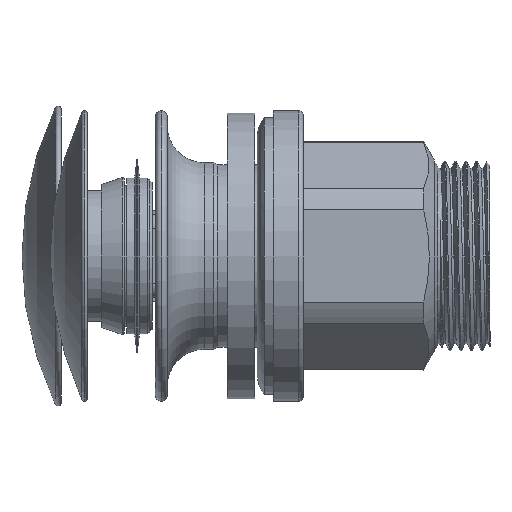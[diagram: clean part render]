
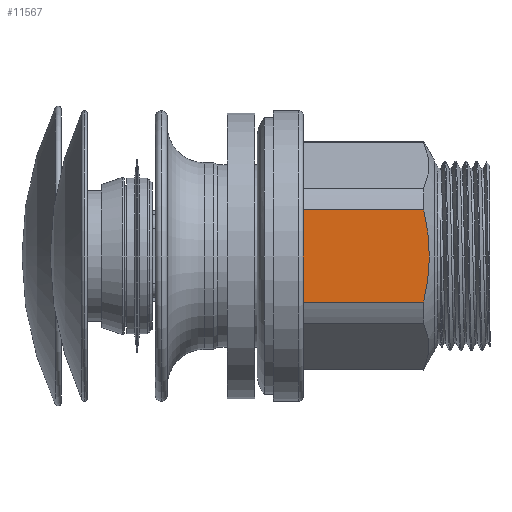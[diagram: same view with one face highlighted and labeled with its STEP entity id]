
A CAD part, left-side view. The second image highlights one B-rep face of the part: STEP entity #11567.
In plain terms, the highlighted planar face has unit normal (-1, 0, 0).
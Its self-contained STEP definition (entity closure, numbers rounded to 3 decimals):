
#32=(
BOUNDED_CURVE()
B_SPLINE_CURVE(2,(#34868,#34869,#34870),.UNSPECIFIED.,.F.,.F.)
B_SPLINE_CURVE_WITH_KNOTS((3,3),(7.369,9.521),
 .UNSPECIFIED.)
CURVE()
GEOMETRIC_REPRESENTATION_ITEM()
RATIONAL_B_SPLINE_CURVE((2.083,2.083,1.991))
REPRESENTATION_ITEM('')
);
#33=(
BOUNDED_CURVE()
B_SPLINE_CURVE(2,(#34872,#34873,#34874),.UNSPECIFIED.,.F.,.F.)
B_SPLINE_CURVE_WITH_KNOTS((3,3),(5.218,7.369),
 .UNSPECIFIED.)
CURVE()
GEOMETRIC_REPRESENTATION_ITEM()
RATIONAL_B_SPLINE_CURVE((1.991,2.083,2.083))
REPRESENTATION_ITEM('')
);
#307=PLANE('',#12598);
#794=FACE_OUTER_BOUND('',#1508,.T.);
#1508=EDGE_LOOP('',(#9088,#9089,#9090,#9091,#9092));
#3246=LINE('',#30450,#3915);
#3247=LINE('',#30455,#3916);
#3274=LINE('',#31255,#3943);
#3915=VECTOR('',#14615,1.);
#3916=VECTOR('',#14620,1.);
#3943=VECTOR('',#14761,1.);
#4822=VERTEX_POINT('',#30447);
#4823=VERTEX_POINT('',#30449);
#4824=VERTEX_POINT('',#30453);
#4825=VERTEX_POINT('',#30454);
#4933=VERTEX_POINT('',#34867);
#6229=EDGE_CURVE('',#4823,#4822,#3246,.T.);
#6231=EDGE_CURVE('',#4824,#4825,#3247,.T.);
#6308=EDGE_CURVE('',#4824,#4822,#3274,.T.);
#6410=EDGE_CURVE('',#4933,#4823,#32,.T.);
#6412=EDGE_CURVE('',#4825,#4933,#33,.T.);
#9088=ORIENTED_EDGE('',*,*,#6229,.T.);
#9089=ORIENTED_EDGE('',*,*,#6308,.F.);
#9090=ORIENTED_EDGE('',*,*,#6231,.T.);
#9091=ORIENTED_EDGE('',*,*,#6412,.T.);
#9092=ORIENTED_EDGE('',*,*,#6410,.T.);
#11567=ADVANCED_FACE('',(#794),#307,.F.);
#12598=AXIS2_PLACEMENT_3D('',#34887,#14971,#14972);
#14615=DIRECTION('',(0.,1.,0.));
#14620=DIRECTION('',(0.,-1.,0.));
#14761=DIRECTION('',(0.,0.,1.));
#14971=DIRECTION('center_axis',(1.,0.,0.));
#14972=DIRECTION('ref_axis',(0.,1.,0.));
#30447=CARTESIAN_POINT('',(-22.65,-18.183,-124.206));
#30449=CARTESIAN_POINT('',(-22.65,-44.293,-124.206));
#30450=CARTESIAN_POINT('',(-22.65,-38.433,-124.206));
#30453=CARTESIAN_POINT('',(-22.65,-18.183,-144.16));
#30454=CARTESIAN_POINT('',(-22.65,-44.293,-144.16));
#30455=CARTESIAN_POINT('',(-22.65,-38.433,-144.16));
#31255=CARTESIAN_POINT('',(-22.65,-18.183,-136.183));
#34867=CARTESIAN_POINT('',(-22.65,-45.505,-134.183));
#34868=CARTESIAN_POINT('Ctrl Pts',(-22.65,-45.505,
-134.183));
#34869=CARTESIAN_POINT('Ctrl Pts',(-22.65,-45.505,
-129.416));
#34870=CARTESIAN_POINT('Ctrl Pts',(-22.65,-44.293,-124.206));
#34872=CARTESIAN_POINT('Ctrl Pts',(-22.65,-44.293,-144.16));
#34873=CARTESIAN_POINT('Ctrl Pts',(-22.65,-45.505,
-138.95));
#34874=CARTESIAN_POINT('Ctrl Pts',(-22.65,-45.505,
-134.183));
#34887=CARTESIAN_POINT('Origin',(-22.65,-58.683,-136.183));
